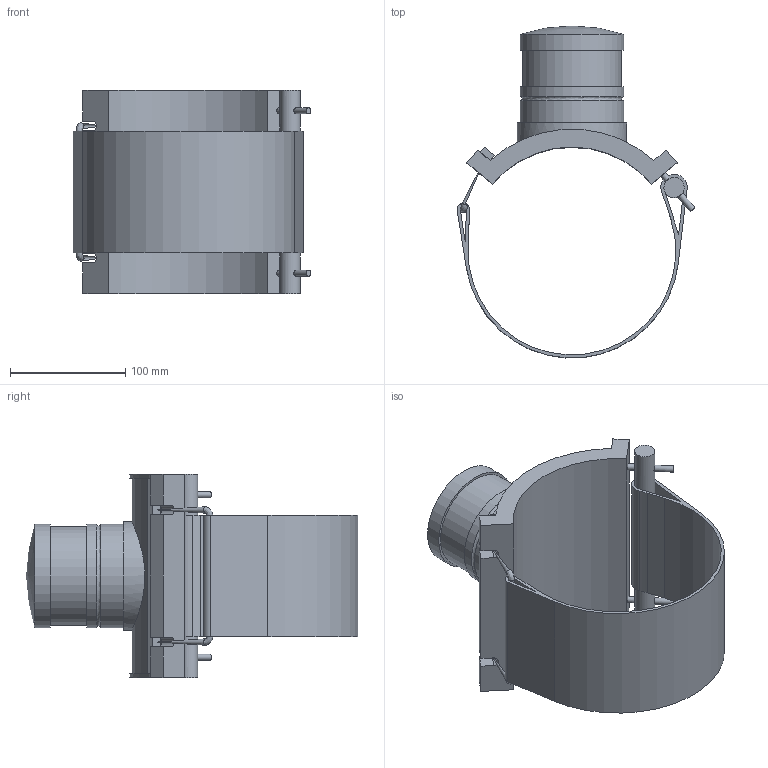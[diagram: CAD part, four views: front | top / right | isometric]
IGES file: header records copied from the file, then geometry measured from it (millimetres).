
Global section: file name: 496804180025.ipt; native system: Autodesk Inventor 2015; preprocessor: unknown; author: KIM; date: 20171106.094410; units: millimetre
Bounding box: 205.98 x 287.5 x 176 mm (x, y, z)
Volume: 1245765.8 mm3; surface area: 238872.9 mm2
Topology: 2 solids, 2 shells, 72 faces, 185 edges, 120 vertices
Faces by surface type: plane 43, cylinder 19, revolution 9, sphere 1
Full cylindrical faces by diameter (mm): 5.4 x6, 17.446 x1, 85.5 x1, 90 x3, 94.5 x1
